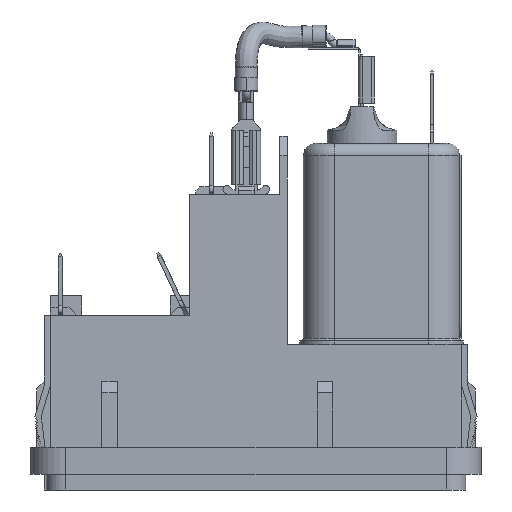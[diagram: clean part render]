
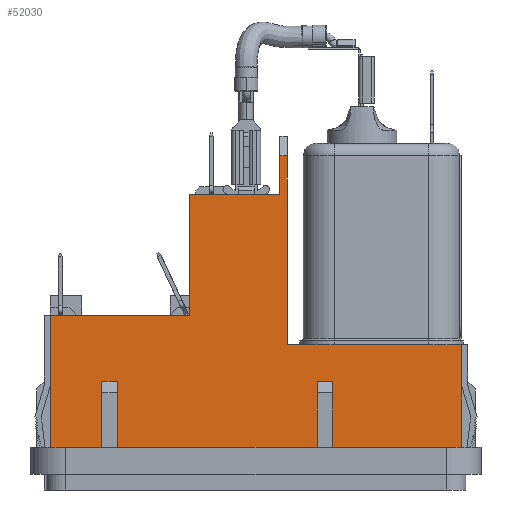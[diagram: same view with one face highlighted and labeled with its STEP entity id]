
A CAD part, left-side view. The second image highlights one B-rep face of the part: STEP entity #52030.
In plain terms, the highlighted planar face has unit normal (-1, 0, 0).
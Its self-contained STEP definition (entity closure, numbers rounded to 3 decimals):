
#14263=CARTESIAN_POINT('',(-13.35,8.55,36.0));
#14264=VERTEX_POINT('',#14263);
#14265=CARTESIAN_POINT('',(-13.35,-3.05,36.0));
#14266=VERTEX_POINT('',#14265);
#14267=CARTESIAN_POINT('',(-13.35,8.55,36.0));
#14268=DIRECTION('',(0.0,-1.0,0.0));
#14269=VECTOR('',#14268,11.6);
#14270=LINE('',#14267,#14269);
#14271=EDGE_CURVE('',#14264,#14266,#14270,.T.);
#40538=CARTESIAN_POINT('',(-13.35,-7.4,16.7));
#40539=VERTEX_POINT('',#40538);
#40540=CARTESIAN_POINT('',(-13.35,-7.748,16.7));
#40541=VERTEX_POINT('',#40540);
#40542=CARTESIAN_POINT('',(-13.35,-7.4,16.7));
#40543=DIRECTION('',(0.0,-1.0,0.0));
#40544=VECTOR('',#40543,0.348);
#40545=LINE('',#40542,#40544);
#40546=EDGE_CURVE('',#40539,#40541,#40545,.T.);
#40565=CARTESIAN_POINT('',(-13.35,-24.552,16.7));
#40566=VERTEX_POINT('',#40565);
#40574=CARTESIAN_POINT('',(-13.35,-24.9,16.7));
#40575=VERTEX_POINT('',#40574);
#40576=CARTESIAN_POINT('',(-13.35,-24.552,16.7));
#40577=DIRECTION('',(0.0,-1.0,0.0));
#40578=VECTOR('',#40577,0.348);
#40579=LINE('',#40576,#40578);
#40580=EDGE_CURVE('',#40566,#40575,#40579,.T.);
#42675=CARTESIAN_POINT('',(-13.35,-10.25,16.7));
#42676=VERTEX_POINT('',#42675);
#42677=CARTESIAN_POINT('',(-13.35,-7.748,16.7));
#42678=DIRECTION('',(0.0,-1.0,0.0));
#42679=VECTOR('',#42678,2.502);
#42680=LINE('',#42677,#42679);
#42681=EDGE_CURVE('',#40541,#42676,#42680,.T.);
#42736=CARTESIAN_POINT('',(-13.35,-4.05,16.7));
#42737=VERTEX_POINT('',#42736);
#42744=CARTESIAN_POINT('',(-13.35,-4.05,16.7));
#42745=DIRECTION('',(0.0,-1.0,0.0));
#42746=VECTOR('',#42745,3.35);
#42747=LINE('',#42744,#42746);
#42748=EDGE_CURVE('',#42737,#40539,#42747,.T.);
#42791=CARTESIAN_POINT('',(-13.35,-26.45,16.7));
#42792=VERTEX_POINT('',#42791);
#42793=CARTESIAN_POINT('',(-13.35,-24.9,16.7));
#42794=DIRECTION('',(0.0,-1.0,0.0));
#42795=VECTOR('',#42794,1.55);
#42796=LINE('',#42793,#42795);
#42797=EDGE_CURVE('',#40575,#42792,#42796,.T.);
#42895=CARTESIAN_POINT('',(-13.35,-22.05,16.7));
#42896=VERTEX_POINT('',#42895);
#42904=CARTESIAN_POINT('',(-13.35,-22.05,16.7));
#42905=DIRECTION('',(0.0,-1.0,0.0));
#42906=VECTOR('',#42905,2.502);
#42907=LINE('',#42904,#42906);
#42908=EDGE_CURVE('',#42896,#40566,#42907,.T.);
#43709=CARTESIAN_POINT('',(-13.35,8.55,20.5));
#43710=VERTEX_POINT('',#43709);
#43717=CARTESIAN_POINT('',(-13.35,8.55,20.5));
#43718=DIRECTION('',(0.0,0.0,1.0));
#43719=VECTOR('',#43718,15.5);
#43720=LINE('',#43717,#43719);
#43721=EDGE_CURVE('',#43710,#14264,#43720,.T.);
#43884=CARTESIAN_POINT('',(-13.35,26.45,20.5));
#43885=VERTEX_POINT('',#43884);
#43892=CARTESIAN_POINT('',(-13.35,8.55,20.5));
#43893=DIRECTION('',(0.0,1.0,0.0));
#43894=VECTOR('',#43893,17.9);
#43895=LINE('',#43892,#43894);
#43896=EDGE_CURVE('',#43710,#43885,#43895,.T.);
#50452=CARTESIAN_POINT('',(-13.35,19.85,12.));
#50453=VERTEX_POINT('',#50452);
#50470=CARTESIAN_POINT('',(-13.35,17.85,12.));
#50471=VERTEX_POINT('',#50470);
#50478=CARTESIAN_POINT('',(-13.35,19.85,12.));
#50479=DIRECTION('',(0.0,-1.0,0.0));
#50480=VECTOR('',#50479,2.0);
#50481=LINE('',#50478,#50480);
#50482=EDGE_CURVE('',#50453,#50471,#50481,.T.);
#50501=CARTESIAN_POINT('',(-13.35,17.85,3.5));
#50502=VERTEX_POINT('',#50501);
#50509=CARTESIAN_POINT('',(-13.35,17.85,12.0));
#50510=DIRECTION('',(0.0,0.0,-1.0));
#50511=VECTOR('',#50510,8.5);
#50512=LINE('',#50509,#50511);
#50513=EDGE_CURVE('',#50471,#50502,#50512,.T.);
#50523=CARTESIAN_POINT('',(-13.35,-7.9,12.));
#50524=VERTEX_POINT('',#50523);
#50541=CARTESIAN_POINT('',(-13.35,-9.9,12.));
#50542=VERTEX_POINT('',#50541);
#50549=CARTESIAN_POINT('',(-13.35,-7.9,12.));
#50550=DIRECTION('',(0.0,-1.0,0.0));
#50551=VECTOR('',#50550,2.0);
#50552=LINE('',#50549,#50551);
#50553=EDGE_CURVE('',#50524,#50542,#50552,.T.);
#50572=CARTESIAN_POINT('',(-13.35,-9.9,3.5));
#50573=VERTEX_POINT('',#50572);
#50580=CARTESIAN_POINT('',(-13.35,-9.9,12.0));
#50581=DIRECTION('',(0.0,0.0,-1.0));
#50582=VECTOR('',#50581,8.5);
#50583=LINE('',#50580,#50582);
#50584=EDGE_CURVE('',#50542,#50573,#50583,.T.);
#50907=CARTESIAN_POINT('',(-13.35,-7.9,3.5));
#50908=VERTEX_POINT('',#50907);
#50909=CARTESIAN_POINT('',(-13.35,-7.9,3.5));
#50910=DIRECTION('',(0.0,0.0,1.0));
#50911=VECTOR('',#50910,8.5);
#50912=LINE('',#50909,#50911);
#50913=EDGE_CURVE('',#50908,#50524,#50912,.T.);
#50955=CARTESIAN_POINT('',(-13.35,19.85,3.5));
#50956=VERTEX_POINT('',#50955);
#50957=CARTESIAN_POINT('',(-13.35,19.85,3.5));
#50958=DIRECTION('',(0.0,0.0,1.0));
#50959=VECTOR('',#50958,8.5);
#50960=LINE('',#50957,#50959);
#50961=EDGE_CURVE('',#50956,#50453,#50960,.T.);
#51282=CARTESIAN_POINT('',(-13.35,-26.45,3.5));
#51283=VERTEX_POINT('',#51282);
#51290=CARTESIAN_POINT('',(-13.35,-26.45,3.5));
#51291=DIRECTION('',(0.0,1.0,0.0));
#51292=VECTOR('',#51291,16.55);
#51293=LINE('',#51290,#51292);
#51294=EDGE_CURVE('',#51283,#50573,#51293,.T.);
#51299=CARTESIAN_POINT('',(-13.35,-7.9,3.5));
#51300=DIRECTION('',(0.0,1.0,0.0));
#51301=VECTOR('',#51300,25.75);
#51302=LINE('',#51299,#51301);
#51303=EDGE_CURVE('',#50908,#50502,#51302,.T.);
#51308=CARTESIAN_POINT('',(-13.35,26.45,3.5));
#51309=VERTEX_POINT('',#51308);
#51310=CARTESIAN_POINT('',(-13.35,19.85,3.5));
#51311=DIRECTION('',(0.0,1.0,0.0));
#51312=VECTOR('',#51311,6.6);
#51313=LINE('',#51310,#51312);
#51314=EDGE_CURVE('',#50956,#51309,#51313,.T.);
#51913=CARTESIAN_POINT('',(-13.35,-4.05,41.0));
#51914=VERTEX_POINT('',#51913);
#51921=CARTESIAN_POINT('',(-13.35,-4.05,41.0));
#51922=DIRECTION('',(0.0,0.0,-1.0));
#51923=VECTOR('',#51922,24.3);
#51924=LINE('',#51921,#51923);
#51925=EDGE_CURVE('',#51914,#42737,#51924,.T.);
#51946=CARTESIAN_POINT('',(-13.35,-3.05,41.0));
#51947=VERTEX_POINT('',#51946);
#51954=CARTESIAN_POINT('',(-13.35,-3.05,41.0));
#51955=DIRECTION('',(0.0,-1.0,0.0));
#51956=VECTOR('',#51955,1.);
#51957=LINE('',#51954,#51956);
#51958=EDGE_CURVE('',#51947,#51914,#51957,.T.);
#51963=CARTESIAN_POINT('',(-13.35,-26.45,3.5));
#51964=DIRECTION('',(-1.0,0.0,0.0));
#51965=DIRECTION('',(0.0,0.0,1.0));
#51966=AXIS2_PLACEMENT_3D('',#51963,#51964,#51965);
#51967=PLANE('',#51966);
#51968=ORIENTED_EDGE('',*,*,#50584,.T.);
#51969=ORIENTED_EDGE('',*,*,#51294,.F.);
#51970=CARTESIAN_POINT('',(-13.35,-26.45,3.5));
#51971=DIRECTION('',(0.0,0.0,1.0));
#51972=VECTOR('',#51971,13.2);
#51973=LINE('',#51970,#51972);
#51974=EDGE_CURVE('',#51283,#42792,#51973,.T.);
#51975=ORIENTED_EDGE('',*,*,#51974,.T.);
#51976=ORIENTED_EDGE('',*,*,#42797,.F.);
#51977=ORIENTED_EDGE('',*,*,#40580,.F.);
#51978=ORIENTED_EDGE('',*,*,#42908,.F.);
#51979=CARTESIAN_POINT('',(-13.35,-22.05,18.7));
#51980=VERTEX_POINT('',#51979);
#51981=CARTESIAN_POINT('',(-13.35,-22.05,18.7));
#51982=DIRECTION('',(0.0,0.0,-1.0));
#51983=VECTOR('',#51982,2.);
#51984=LINE('',#51981,#51983);
#51985=EDGE_CURVE('',#51980,#42896,#51984,.T.);
#51986=ORIENTED_EDGE('',*,*,#51985,.F.);
#51987=CARTESIAN_POINT('',(-13.35,-10.25,18.7));
#51988=VERTEX_POINT('',#51987);
#51989=CARTESIAN_POINT('',(-13.35,-10.25,18.7));
#51990=DIRECTION('',(0.0,-1.0,0.0));
#51991=VECTOR('',#51990,11.8);
#51992=LINE('',#51989,#51991);
#51993=EDGE_CURVE('',#51988,#51980,#51992,.T.);
#51994=ORIENTED_EDGE('',*,*,#51993,.F.);
#51995=CARTESIAN_POINT('',(-13.35,-10.25,16.7));
#51996=DIRECTION('',(0.0,0.0,1.0));
#51997=VECTOR('',#51996,2.0);
#51998=LINE('',#51995,#51997);
#51999=EDGE_CURVE('',#42676,#51988,#51998,.T.);
#52000=ORIENTED_EDGE('',*,*,#51999,.F.);
#52001=ORIENTED_EDGE('',*,*,#42681,.F.);
#52002=ORIENTED_EDGE('',*,*,#40546,.F.);
#52003=ORIENTED_EDGE('',*,*,#42748,.F.);
#52004=ORIENTED_EDGE('',*,*,#51925,.F.);
#52005=ORIENTED_EDGE('',*,*,#51958,.F.);
#52006=CARTESIAN_POINT('',(-13.35,-3.05,36.));
#52007=DIRECTION('',(0.0,0.0,1.0));
#52008=VECTOR('',#52007,5.);
#52009=LINE('',#52006,#52008);
#52010=EDGE_CURVE('',#14266,#51947,#52009,.T.);
#52011=ORIENTED_EDGE('',*,*,#52010,.F.);
#52012=ORIENTED_EDGE('',*,*,#14271,.F.);
#52013=ORIENTED_EDGE('',*,*,#43721,.F.);
#52014=ORIENTED_EDGE('',*,*,#43896,.T.);
#52015=CARTESIAN_POINT('',(-13.35,26.45,3.5));
#52016=DIRECTION('',(0.0,0.0,1.0));
#52017=VECTOR('',#52016,17.);
#52018=LINE('',#52015,#52017);
#52019=EDGE_CURVE('',#51309,#43885,#52018,.T.);
#52020=ORIENTED_EDGE('',*,*,#52019,.F.);
#52021=ORIENTED_EDGE('',*,*,#51314,.F.);
#52022=ORIENTED_EDGE('',*,*,#50961,.T.);
#52023=ORIENTED_EDGE('',*,*,#50482,.T.);
#52024=ORIENTED_EDGE('',*,*,#50513,.T.);
#52025=ORIENTED_EDGE('',*,*,#51303,.F.);
#52026=ORIENTED_EDGE('',*,*,#50913,.T.);
#52027=ORIENTED_EDGE('',*,*,#50553,.T.);
#52028=EDGE_LOOP('',(#51968,#51969,#51975,#51976,#51977,#51978,#51986,#51994,#52000,#52001,#52002,#52003,#52004,#52005,#52011,#52012,#52013,#52014,#52020,#52021,#52022,#52023,#52024,#52025,#52026,#52027));
#52029=FACE_OUTER_BOUND('',#52028,.T.);
#52030=ADVANCED_FACE('',(#52029),#51967,.T.);
